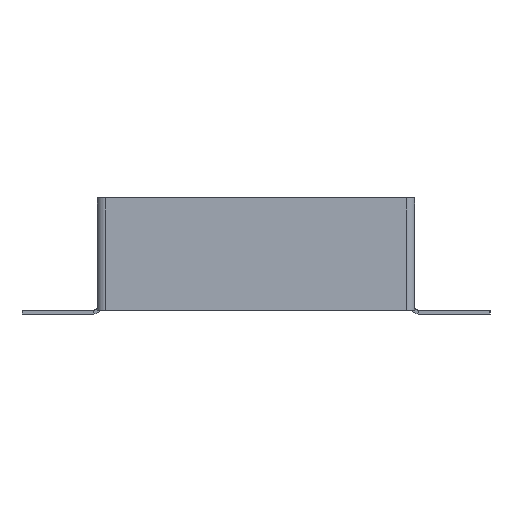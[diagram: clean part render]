
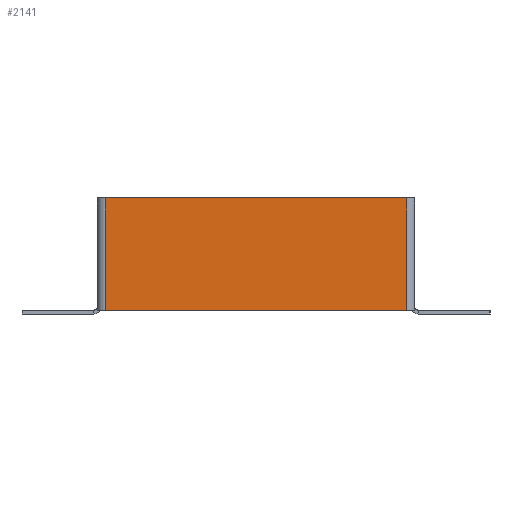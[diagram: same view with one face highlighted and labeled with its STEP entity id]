
A CAD part, front view. The second image highlights one B-rep face of the part: STEP entity #2141.
In plain terms, the highlighted planar face has unit normal (0, -1, 0).
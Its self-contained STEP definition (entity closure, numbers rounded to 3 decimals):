
#1068 = ORIENTED_EDGE ( 'NONE', *, *, #3282, .F. ) ;
#1214 = DIRECTION ( 'NONE',  ( 1., 0., 0. ) ) ;
#1261 = LINE ( 'NONE', #8664, #7414 ) ;
#1437 = ORIENTED_EDGE ( 'NONE', *, *, #9127, .F. ) ;
#1603 = CARTESIAN_POINT ( 'NONE',  ( 78., -2., 0. ) ) ;
#2141 = ADVANCED_FACE ( 'NONE', ( #5207 ), #5373, .F. ) ;
#2196 = CARTESIAN_POINT ( 'NONE',  ( -78., -2., 0. ) ) ;
#3002 = DIRECTION ( 'NONE',  ( 0., 0., -1. ) ) ;
#3282 = EDGE_CURVE ( 'NONE', #8400, #5445, #6594, .T. ) ;
#3331 = EDGE_CURVE ( 'NONE', #3911, #5445, #7885, .T. ) ;
#3525 = VECTOR ( 'NONE', #3002, 1000. ) ;
#3857 = EDGE_LOOP ( 'NONE', ( #7030, #1437, #4705, #1068 ) ) ;
#3911 = VERTEX_POINT ( 'NONE', #7844 ) ;
#4133 = CARTESIAN_POINT ( 'NONE',  ( 78., -2., -58. ) ) ;
#4441 = AXIS2_PLACEMENT_3D ( 'NONE', #6778, #9176, #4652 ) ;
#4580 = VECTOR ( 'NONE', #5642, 1000. ) ;
#4652 = DIRECTION ( 'NONE',  ( 0., 0., 1. ) ) ;
#4705 = ORIENTED_EDGE ( 'NONE', *, *, #3331, .T. ) ;
#4961 = CARTESIAN_POINT ( 'NONE',  ( -80., -2., 0. ) ) ;
#5055 = VERTEX_POINT ( 'NONE', #9819 ) ;
#5207 = FACE_OUTER_BOUND ( 'NONE', #3857, .T. ) ;
#5373 = PLANE ( 'NONE',  #4441 ) ;
#5445 = VERTEX_POINT ( 'NONE', #1603 ) ;
#5541 = DIRECTION ( 'NONE',  ( -1., 0., 0. ) ) ;
#5642 = DIRECTION ( 'NONE',  ( 0., 0., 1. ) ) ;
#6225 = LINE ( 'NONE', #2196, #3525 ) ;
#6594 = LINE ( 'NONE', #4961, #8709 ) ;
#6778 = CARTESIAN_POINT ( 'NONE',  ( 0., -2., 0. ) ) ;
#7030 = ORIENTED_EDGE ( 'NONE', *, *, #9484, .T. ) ;
#7414 = VECTOR ( 'NONE', #5541, 1000. ) ;
#7844 = CARTESIAN_POINT ( 'NONE',  ( 78., -2., -58. ) ) ;
#7885 = LINE ( 'NONE', #4133, #4580 ) ;
#8400 = VERTEX_POINT ( 'NONE', #9170 ) ;
#8664 = CARTESIAN_POINT ( 'NONE',  ( -80., -2., -58. ) ) ;
#8709 = VECTOR ( 'NONE', #1214, 1000. ) ;
#9127 = EDGE_CURVE ( 'NONE', #3911, #5055, #1261, .T. ) ;
#9170 = CARTESIAN_POINT ( 'NONE',  ( -78., -2., 0. ) ) ;
#9176 = DIRECTION ( 'NONE',  ( 0., 1., 0. ) ) ;
#9484 = EDGE_CURVE ( 'NONE', #8400, #5055, #6225, .T. ) ;
#9819 = CARTESIAN_POINT ( 'NONE',  ( -78., -2., -58. ) ) ;
